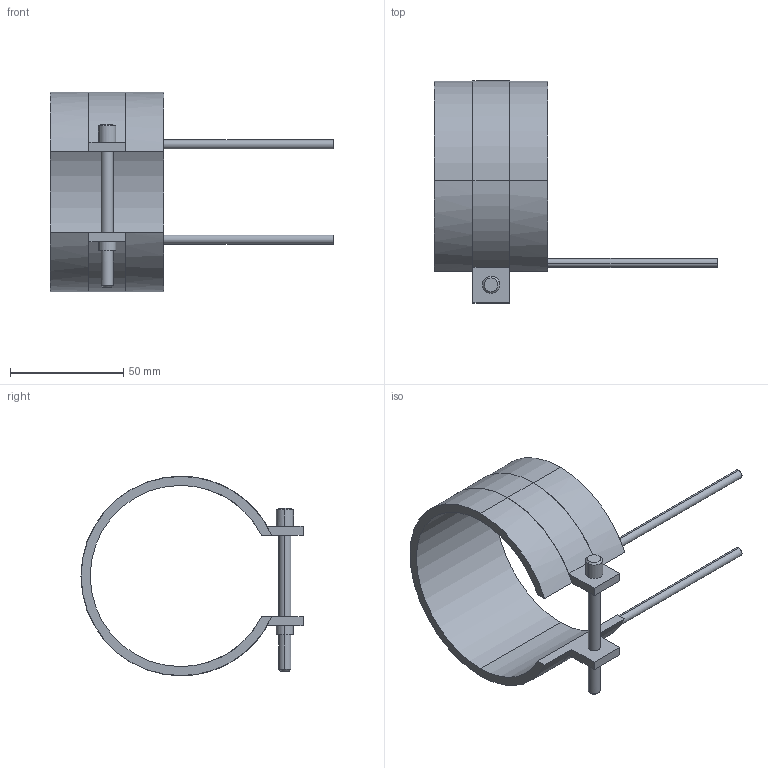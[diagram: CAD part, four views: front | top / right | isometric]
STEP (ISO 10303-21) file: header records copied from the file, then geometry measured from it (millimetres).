
FILE_DESCRIPTION(('CATIA V5 STEP Exchange'),'2;1');
FILE_NAME('C:\Users\Utente\Desktop\IO LAVORO\3D X SITO CF\X SITO\PLASTICA\RF2\14080050.stp','2021-04-03T08:02:48+00:00',('none'),('none'),'CATIA Version 5 Release 20 GA (IN-10)','CATIA V5 STEP AP203','none');
FILE_SCHEMA(('CONFIG_CONTROL_DESIGN'));
Length unit declared in the file: millimetre
Products named in the file (1): 14080050
Bounding box: 125 x 98.1 x 88.2 mm (x, y, z)
Volume: 51186.3 mm3; surface area: 29128.3 mm2
Topology: 1 solids, 1 shells, 45 faces, 116 edges, 76 vertices
Faces by surface type: cylinder 24, plane 17, cone 4
Entity records: 1418 total; most frequent: CARTESIAN_POINT 296, ORIENTED_EDGE 232, DIRECTION 194, EDGE_CURVE 116, AXIS2_PLACEMENT_3D 102, VERTEX_POINT 76, CIRCLE 60, VECTOR 52
